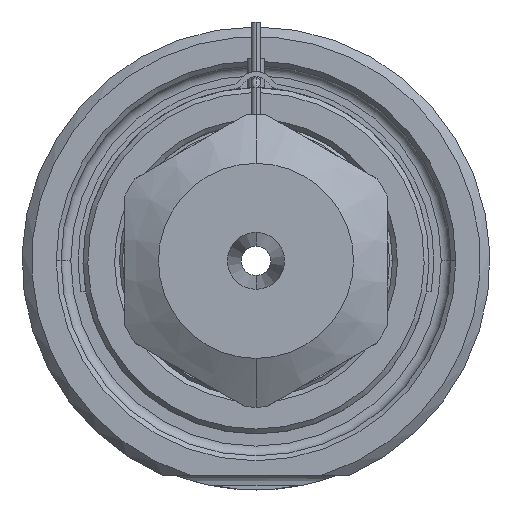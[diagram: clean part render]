
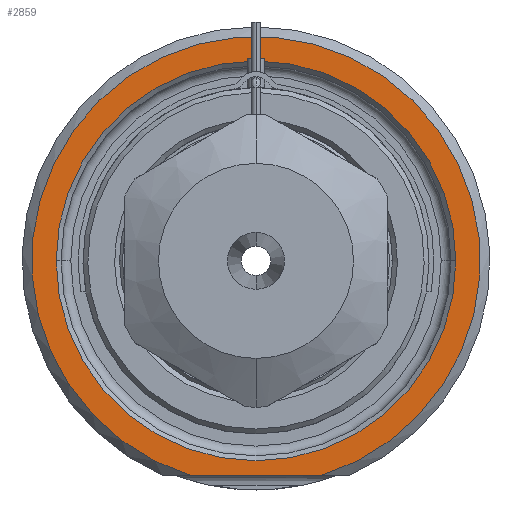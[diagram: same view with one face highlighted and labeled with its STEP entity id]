
A CAD part, front view. The second image highlights one B-rep face of the part: STEP entity #2859.
In plain terms, the highlighted planar face has unit normal (0, -1, 0).
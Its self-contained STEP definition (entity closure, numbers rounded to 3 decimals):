
#1=DIRECTION('',(1.,0.,0.));
#2=VECTOR('',#1,13.416);
#3=CARTESIAN_POINT('',(-6.708,0.,-22.));
#4=LINE('',#3,#2);
#5=CARTESIAN_POINT('',(0.,0.,0.));
#6=DIRECTION('',(0.,1.,0.));
#7=DIRECTION('',(-1.,0.,0.));
#8=AXIS2_PLACEMENT_3D('',#5,#6,#7);
#10=CARTESIAN_POINT('',(0.,0.,0.));
#11=DIRECTION('',(0.,1.,0.));
#12=DIRECTION('',(1.,0.,0.));
#13=AXIS2_PLACEMENT_3D('',#10,#11,#12);
#121=CARTESIAN_POINT('',(0.,0.,0.));
#122=DIRECTION('',(0.,-1.,0.));
#123=DIRECTION('',(0.292,0.,-0.957));
#124=AXIS2_PLACEMENT_3D('',#121,#122,#123);
#2383=CARTESIAN_POINT('',(-20.5,0.,0.));
#2384=CARTESIAN_POINT('',(20.5,0.,0.));
#2385=VERTEX_POINT('',#2383);
#2386=VERTEX_POINT('',#2384);
#2423=CARTESIAN_POINT('',(-6.708,0.,-22.));
#2424=CARTESIAN_POINT('',(6.708,0.,-22.));
#2425=VERTEX_POINT('',#2423);
#2426=VERTEX_POINT('',#2424);
#2842=CARTESIAN_POINT('',(0.,0.,0.));
#2843=DIRECTION('',(0.,-1.,0.));
#2844=DIRECTION('',(1.,0.,0.));
#2845=AXIS2_PLACEMENT_3D('',#2842,#2843,#2844);
#2846=PLANE('',#2845);
#2848=ORIENTED_EDGE('',*,*,#2847,.F.);
#2850=ORIENTED_EDGE('',*,*,#2849,.F.);
#2851=EDGE_LOOP('',(#2848,#2850));
#2852=FACE_OUTER_BOUND('',#2851,.F.);
#2854=ORIENTED_EDGE('',*,*,#2853,.F.);
#2856=ORIENTED_EDGE('',*,*,#2855,.F.);
#2857=EDGE_LOOP('',(#2854,#2856));
#2858=FACE_BOUND('',#2857,.F.);
#2859=ADVANCED_FACE('',(#2852,#2858),#2846,.T.);
#9=CIRCLE('',#8,20.5);
#14=CIRCLE('',#13,20.5);
#125=CIRCLE('',#124,23.);
#2847=EDGE_CURVE('',#2425,#2426,#4,.T.);
#2849=EDGE_CURVE('',#2426,#2425,#125,.T.);
#2853=EDGE_CURVE('',#2385,#2386,#9,.T.);
#2855=EDGE_CURVE('',#2386,#2385,#14,.T.);
